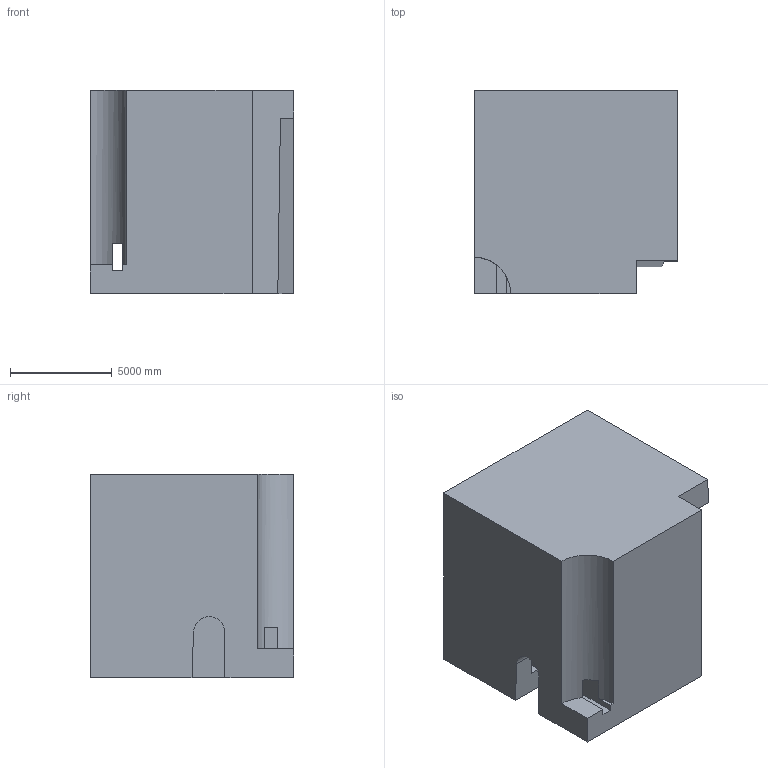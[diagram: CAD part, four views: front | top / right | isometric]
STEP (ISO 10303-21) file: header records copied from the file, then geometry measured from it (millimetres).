
FILE_DESCRIPTION (( 'STEP AP203' ), '1' );
FILE_NAME ('149.STEP', '2022-09-06T15:13:44', ( 'user' ), ( '' ), 'SwSTEP 2.0', 'SolidWorks 2021', '' );
FILE_SCHEMA (( 'CONFIG_CONTROL_DESIGN' ));
Length unit declared in the file: centimetre
Products named in the file (1): 149
Bounding box: 10000 x 10000 x 10000 mm (x, y, z)
Volume: 930835543185.4 mm3; surface area: 616722909.3 mm2
Topology: 1 solids, 1 shells, 26 faces, 81 edges, 54 vertices
Faces by surface type: plane 23, cylinder 3
Entity records: 982 total; most frequent: ORIENTED_EDGE 162, CARTESIAN_POINT 162, DIRECTION 147, EDGE_CURVE 81, VECTOR 69, LINE 69, VERTEX_POINT 54, AXIS2_PLACEMENT_3D 39
